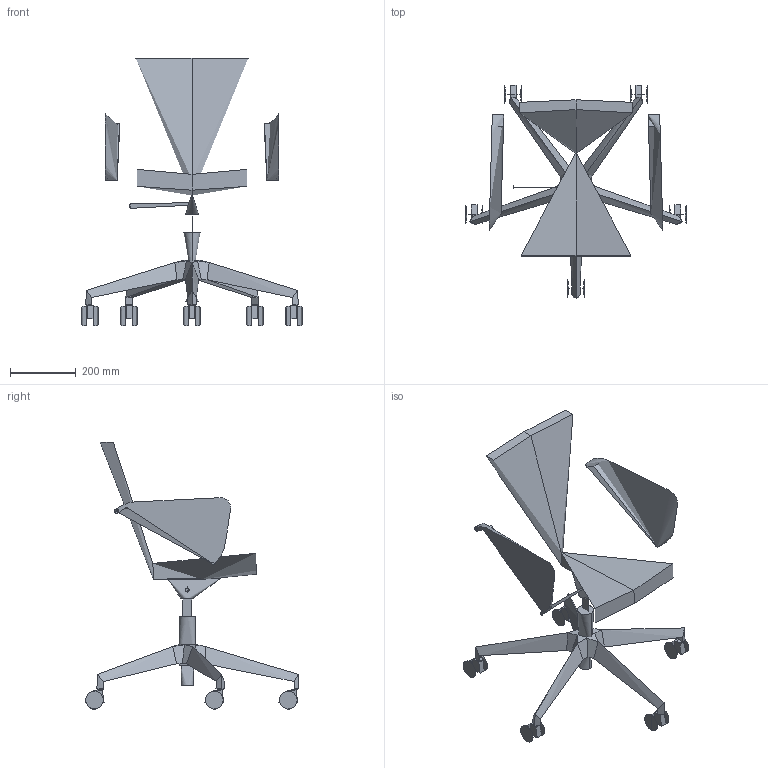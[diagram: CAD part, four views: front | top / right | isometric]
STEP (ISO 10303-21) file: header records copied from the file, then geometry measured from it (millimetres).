
FILE_DESCRIPTION(/* description */ (''),/* implementation_level */ '2;1');
FILE_NAME(/* name */ 'FLEXIC~3',/* time_stamp */ '2015-11-12T15:55:38+01:00',/* author */ (''),/* organization */ (''),/* preprocessor_version */ 'ST-DEVELOPER v15',/* originating_system */ '',/* authorisation */ '');
FILE_SCHEMA (('CONFIG_CONTROL_DESIGN'));
Length unit declared in the file: millimetre
Products named in the file (1): Document
Bounding box: 670.09 x 651.15 x 815.04 mm (x, y, z)
Volume: 16368552.5 mm3; surface area: 1212008 mm2
Topology: 4 solids, 23 shells, 235 faces, 543 edges, 325 vertices
Faces by surface type: bspline 169, plane 66
Entity records: 18834 total; most frequent: CARTESIAN_POINT 15721, ORIENTED_EDGE 952, EDGE_CURVE 520, VERTEX_POINT 323, EDGE_LOOP 248, ADVANCED_FACE 235, FACE_OUTER_BOUND 235, B_SPLINE_CURVE_WITH_KNOTS 183
